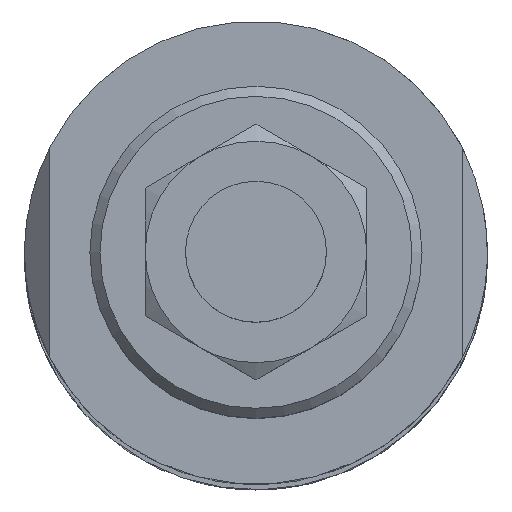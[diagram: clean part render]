
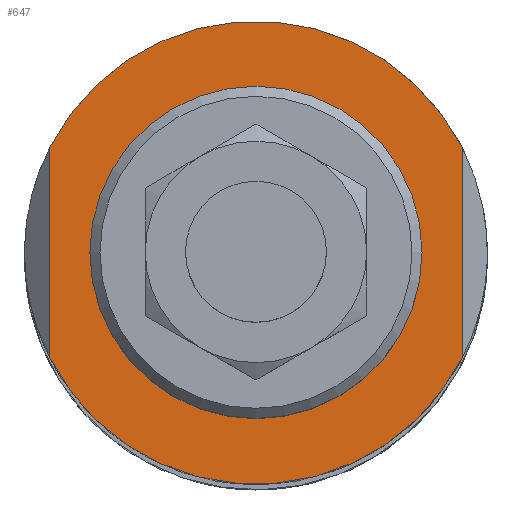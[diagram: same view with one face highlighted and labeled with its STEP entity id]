
A CAD part, top view. The second image highlights one B-rep face of the part: STEP entity #647.
In plain terms, the highlighted planar face has unit normal (0, 0, 1).
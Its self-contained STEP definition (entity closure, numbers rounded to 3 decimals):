
#531=CARTESIAN_POINT('',(-20.5,10.428,363.0));
#532=VERTEX_POINT('',#531);
#540=CARTESIAN_POINT('',(-20.5,-10.428,363.0));
#541=VERTEX_POINT('',#540);
#548=CARTESIAN_POINT('',(-20.5,10.428,363.0));
#549=DIRECTION('',(0.0,-1.0,0.0));
#550=VECTOR('',#549,20.857);
#551=LINE('',#548,#550);
#552=EDGE_CURVE('',#532,#541,#551,.T.);
#587=CARTESIAN_POINT('',(20.5,-10.428,363.0));
#588=VERTEX_POINT('',#587);
#596=CARTESIAN_POINT('',(20.5,10.428,363.0));
#597=VERTEX_POINT('',#596);
#604=CARTESIAN_POINT('',(20.5,-10.428,363.0));
#605=DIRECTION('',(0.0,1.0,0.0));
#606=VECTOR('',#605,20.857);
#607=LINE('',#604,#606);
#608=EDGE_CURVE('',#588,#597,#607,.T.);
#613=CARTESIAN_POINT('',(0.0,0.0,363.0));
#614=DIRECTION('',(0.0,0.0,-1.0));
#615=DIRECTION('',(-1.0,0.0,0.0));
#616=AXIS2_PLACEMENT_3D('',#613,#614,#615);
#617=PLANE('',#616);
#618=ORIENTED_EDGE('',*,*,#552,.T.);
#619=CARTESIAN_POINT('',(0.0,0.0,363.0));
#620=DIRECTION('',(0.0,0.0,-1.0));
#621=DIRECTION('',(-1.0,0.0,0.0));
#622=AXIS2_PLACEMENT_3D('',#619,#620,#621);
#623=CIRCLE('',#622,23.);
#624=EDGE_CURVE('',#588,#541,#623,.T.);
#625=ORIENTED_EDGE('',*,*,#624,.F.);
#626=ORIENTED_EDGE('',*,*,#608,.T.);
#627=CARTESIAN_POINT('',(0.0,0.0,363.0));
#628=DIRECTION('',(0.0,0.0,-1.0));
#629=DIRECTION('',(-1.0,0.0,0.0));
#630=AXIS2_PLACEMENT_3D('',#627,#628,#629);
#631=CIRCLE('',#630,23.);
#632=EDGE_CURVE('',#532,#597,#631,.T.);
#633=ORIENTED_EDGE('',*,*,#632,.F.);
#634=EDGE_LOOP('',(#618,#625,#626,#633));
#635=FACE_OUTER_BOUND('',#634,.T.);
#636=CARTESIAN_POINT('',(16.5,0.,363.0));
#637=VERTEX_POINT('',#636);
#638=CARTESIAN_POINT('',(0.0,0.0,363.0));
#639=DIRECTION('',(0.0,0.0,-1.0));
#640=DIRECTION('',(-1.0,0.0,0.0));
#641=AXIS2_PLACEMENT_3D('',#638,#639,#640);
#642=CIRCLE('',#641,16.5);
#643=EDGE_CURVE('',#637,#637,#642,.T.);
#644=ORIENTED_EDGE('',*,*,#643,.T.);
#645=EDGE_LOOP('',(#644));
#646=FACE_BOUND('',#645,.T.);
#647=ADVANCED_FACE('',(#635,#646),#617,.F.);
